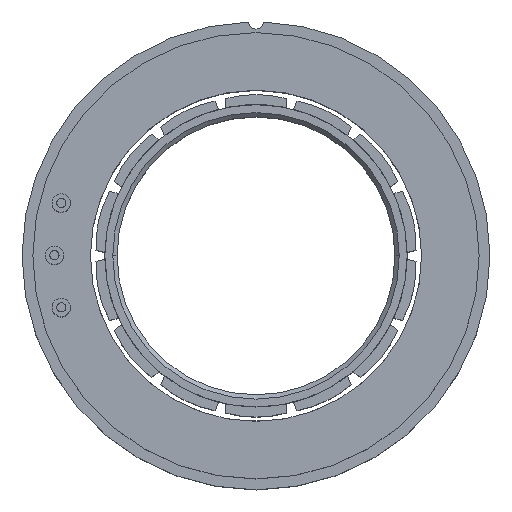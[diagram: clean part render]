
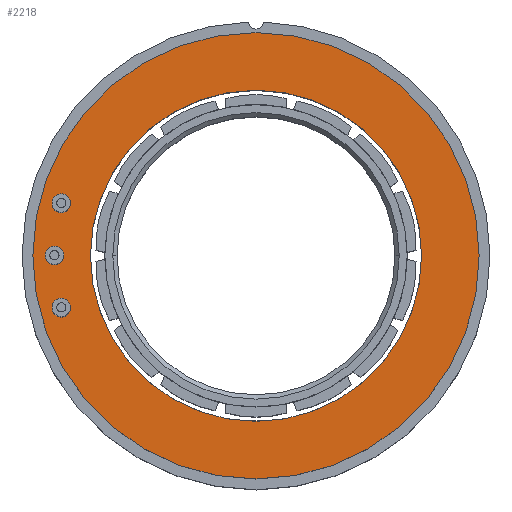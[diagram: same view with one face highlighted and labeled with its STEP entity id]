
A CAD part, top view. The second image highlights one B-rep face of the part: STEP entity #2218.
In plain terms, the highlighted planar face has unit normal (0, 0, 1).
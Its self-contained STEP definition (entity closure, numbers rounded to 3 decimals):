
#125 = DIRECTION ( 'NONE',  ( 0., 0., 1. ) ) ;
#206 = CARTESIAN_POINT ( 'NONE',  ( 11.5, 0., 12.7 ) ) ;
#233 = EDGE_LOOP ( 'NONE', ( #3228, #2569 ) ) ;
#271 = DIRECTION ( 'NONE',  ( 1., 0., 0. ) ) ;
#319 = EDGE_LOOP ( 'NONE', ( #5531, #4779 ) ) ;
#790 = DIRECTION ( 'NONE',  ( 0., 0., 1. ) ) ;
#884 = VERTEX_POINT ( 'NONE', #4338 ) ;
#890 = CIRCLE ( 'NONE', #2216, 15.5 ) ;
#1071 = EDGE_CURVE ( 'NONE', #884, #1957, #890, .T. ) ;
#1081 = AXIS2_PLACEMENT_3D ( 'NONE', #5101, #125, #271 ) ;
#1166 = AXIS2_PLACEMENT_3D ( 'NONE', #2992, #6241, #3022 ) ;
#1314 = DIRECTION ( 'NONE',  ( 1., 0., 0. ) ) ;
#1889 = EDGE_CURVE ( 'NONE', #1957, #884, #6566, .T. ) ;
#1957 = VERTEX_POINT ( 'NONE', #5393 ) ;
#2078 = CIRCLE ( 'NONE', #1081, 11.5 ) ;
#2216 = AXIS2_PLACEMENT_3D ( 'NONE', #5624, #790, #1314 ) ;
#2218 = ADVANCED_FACE ( 'NONE', ( #3993, #6157 ), #4026, .T. ) ;
#2569 = ORIENTED_EDGE ( 'NONE', *, *, #6428, .F. ) ;
#2933 = CARTESIAN_POINT ( 'NONE',  ( 0., 0., 12.7 ) ) ;
#2992 = CARTESIAN_POINT ( 'NONE',  ( 0., 0., 12.7 ) ) ;
#3022 = DIRECTION ( 'NONE',  ( 1., 0., 0. ) ) ;
#3228 = ORIENTED_EDGE ( 'NONE', *, *, #3263, .F. ) ;
#3263 = EDGE_CURVE ( 'NONE', #4910, #4367, #2078, .T. ) ;
#3368 = AXIS2_PLACEMENT_3D ( 'NONE', #6601, #3386, #5545 ) ;
#3386 = DIRECTION ( 'NONE',  ( 0., 0., 1. ) ) ;
#3499 = DIRECTION ( 'NONE',  ( 0., 0., 1. ) ) ;
#3993 = FACE_OUTER_BOUND ( 'NONE', #319, .T. ) ;
#4026 = PLANE ( 'NONE',  #5507 ) ;
#4290 = CARTESIAN_POINT ( 'NONE',  ( -11.5, 0., 12.7 ) ) ;
#4338 = CARTESIAN_POINT ( 'NONE',  ( 15.5, 0., 12.7 ) ) ;
#4367 = VERTEX_POINT ( 'NONE', #206 ) ;
#4779 = ORIENTED_EDGE ( 'NONE', *, *, #1071, .T. ) ;
#4842 = CIRCLE ( 'NONE', #3368, 11.5 ) ;
#4910 = VERTEX_POINT ( 'NONE', #4290 ) ;
#5099 = DIRECTION ( 'NONE',  ( 1., 0., 0. ) ) ;
#5101 = CARTESIAN_POINT ( 'NONE',  ( 0., 0., 12.7 ) ) ;
#5393 = CARTESIAN_POINT ( 'NONE',  ( -15.5, 0., 12.7 ) ) ;
#5507 = AXIS2_PLACEMENT_3D ( 'NONE', #2933, #3499, #5099 ) ;
#5531 = ORIENTED_EDGE ( 'NONE', *, *, #1889, .T. ) ;
#5545 = DIRECTION ( 'NONE',  ( 1., 0., 0. ) ) ;
#5624 = CARTESIAN_POINT ( 'NONE',  ( 0., 0., 12.7 ) ) ;
#6157 = FACE_BOUND ( 'NONE', #233, .T. ) ;
#6241 = DIRECTION ( 'NONE',  ( 0., 0., 1. ) ) ;
#6428 = EDGE_CURVE ( 'NONE', #4367, #4910, #4842, .T. ) ;
#6566 = CIRCLE ( 'NONE', #1166, 15.5 ) ;
#6601 = CARTESIAN_POINT ( 'NONE',  ( 0., 0., 12.7 ) ) ;
